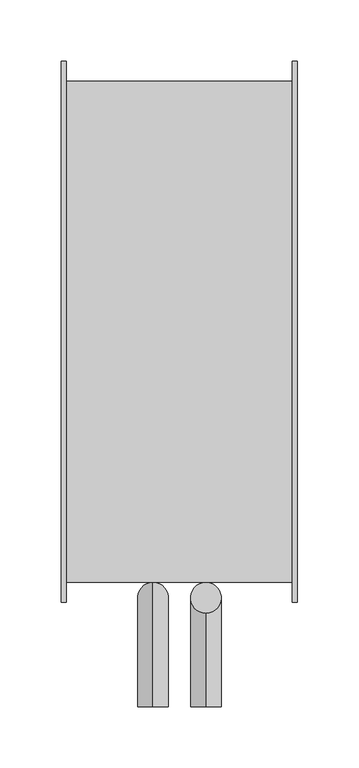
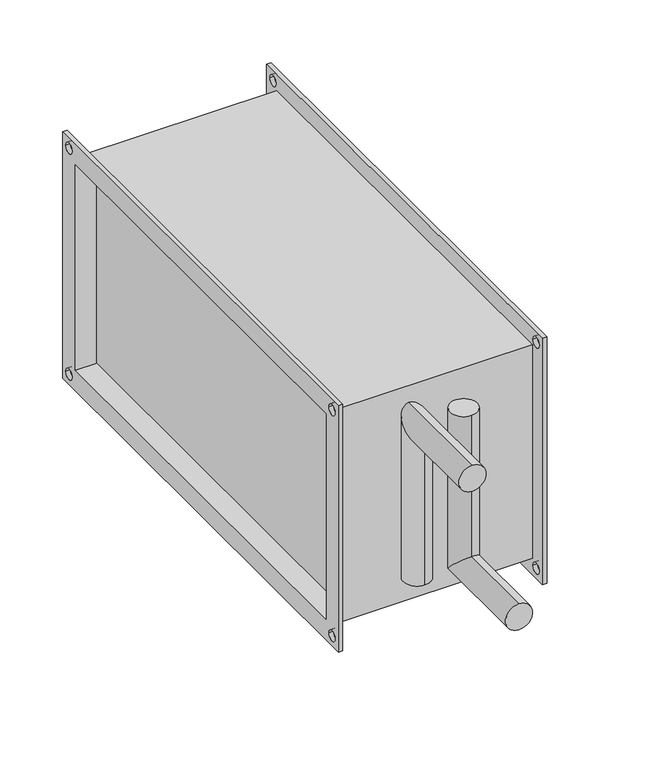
"""IFC4 building model written with IfcOpenShell, lengths in millimetres: proxy geometry, СВ_ВоздухонагревательВодяной_КанальныйПрямоугольный_200-1000_SPH-W : SPH-W-400x200/3."""

from ifc_helpers import new_model, si_unit, frame, origin, place, context, project, spatial, polyline, circle_curve, ellipse_curve, source, transform, mapped, element, save
from ifc_brep_helpers import plane_surface, cylinder_surface, revolved_surface, advanced_brep


def mechanical_equipment_65e6200e(model_context):
    return source(origin(), model_context, "Body", "AdvancedBrep", [
        advanced_brep(
        [(21.5, -204.0, 75.0), (21.5, -229.0, 75.0), (21.5, -204.0, -87.5), (21.5, -229.0, -62.5), (21.5, -305.0, -87.5), (21.5, -305.0, -62.5)],
        [
            (0, 1, circle_curve(frame((21.5, -216.5, 75.0), z_axis=(0.0, 0.0, 1.0), x_axis=(0.0, -1.0, 0.0)), 12.5)),
            (1, 0, circle_curve(frame((21.5, -216.5, 75.0), z_axis=(0.0, 0.0, 1.0), x_axis=(0.0, -1.0, 0.0)), 12.5)),
            (0, 2),
            (2, 3, ellipse_curve(frame((21.5, -216.5, -75.0), z_axis=(0.0, 0.7071067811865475, 0.7071067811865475), x_axis=(0.0, -0.7071067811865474, 0.7071067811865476)), 17.6776695, 12.5)),
            (3, 1),
            (3, 2, ellipse_curve(frame((21.5, -216.5, -75.0), z_axis=(0.0, 0.7071067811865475, 0.7071067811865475), x_axis=(0.0, -0.7071067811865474, 0.7071067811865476)), 17.6776695, 12.5)),
            (4, 5, circle_curve(frame((21.5, -305.0, -75.0), z_axis=(0.0, -1.0, 0.0), x_axis=(0.0, 0.0, 1.0)), 12.5)),
            (5, 4, circle_curve(frame((21.5, -305.0, -75.0), z_axis=(0.0, -1.0, 0.0), x_axis=(0.0, 0.0, 1.0)), 12.5)),
            (2, 4),
            (5, 3),
        ],
        [
            plane_surface(frame((21.5, -216.5, 75.0), z_axis=(0.0, 0.0, 1.0), x_axis=(-1.0, 0.0, 0.0))),
            cylinder_surface(frame((21.5, -216.5, 75.0), z_axis=(0.0, 0.0, 1.0), x_axis=(0.0, -1.0, 0.0)), 12.5),
            plane_surface(frame((21.5, -305.0, -75.0), z_axis=(0.0, -1.0, 0.0), x_axis=(-1.0, 0.0, 0.0))),
            cylinder_surface(frame((21.5, -216.5, -75.0), z_axis=(0.0, 1.0, 0.0), x_axis=(0.0, 0.0, 1.0)), 12.5),
        ],
        [
            (0, [[1, 2]]),
            (1, [[-1, 3, 4, 5]]),
            (1, [[-2, -5, 6, -3]]),
            (2, [[7, 8]]),
            (3, [[-4, 9, -8, 10]]),
            (3, [[-6, -10, -7, -9]]),
        ],
    ),
        advanced_brep(
        [(-21.5, -204.0, -75.0), (-21.5, -229.0, -75.0), (-21.5, -204.0, 87.5), (-21.5, -229.0, 62.5), (-21.5, -305.0, 87.5), (-21.5, -305.0, 62.5)],
        [
            (0, 1, circle_curve(frame((-21.5, -216.5, -75.0), z_axis=(0.0, 0.0, -1.0), x_axis=(0.0, -1.0, 0.0)), 12.5)),
            (1, 0, circle_curve(frame((-21.5, -216.5, -75.0), z_axis=(0.0, 0.0, -1.0), x_axis=(0.0, -1.0, 0.0)), 12.5)),
            (0, 2),
            (2, 3, ellipse_curve(frame((-21.5, -216.5, 75.0), z_axis=(0.0, 0.7071067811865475, -0.7071067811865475), x_axis=(0.0, -0.7071067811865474, -0.7071067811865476)), 17.6776695, 12.5)),
            (3, 1),
            (3, 2, ellipse_curve(frame((-21.5, -216.5, 75.0), z_axis=(0.0, 0.7071067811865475, -0.7071067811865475), x_axis=(0.0, -0.7071067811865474, -0.7071067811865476)), 17.6776695, 12.5)),
            (4, 5, circle_curve(frame((-21.5, -305.0, 75.0), z_axis=(0.0, -1.0, 0.0), x_axis=(0.0, 0.0, -1.0)), 12.5)),
            (5, 4, circle_curve(frame((-21.5, -305.0, 75.0), z_axis=(0.0, -1.0, 0.0), x_axis=(0.0, 0.0, -1.0)), 12.5)),
            (2, 4),
            (5, 3),
        ],
        [
            plane_surface(frame((-21.5, -216.5, -75.0), z_axis=(0.0, 0.0, -1.0), x_axis=(1.0, 0.0, 0.0))),
            cylinder_surface(frame((-21.5, -216.5, -75.0), z_axis=(0.0, 0.0, -1.0), x_axis=(0.0, -1.0, 0.0)), 12.5),
            plane_surface(frame((-21.5, -305.0, 75.0), z_axis=(0.0, -1.0, 0.0), x_axis=(1.0, 0.0, 0.0))),
            cylinder_surface(frame((-21.5, -216.5, 75.0), z_axis=(0.0, 1.0, 0.0), x_axis=(0.0, 0.0, -1.0)), 12.5),
        ],
        [
            (0, [[1, 2]]),
            (1, [[-1, 3, 4, 5]]),
            (1, [[-2, -5, 6, -3]]),
            (2, [[7, 8]]),
            (3, [[-4, 9, -8, 10]]),
            (3, [[-6, -10, -7, -9]]),
        ],
    ),
        advanced_brep(
        [(-92.0, -204.0, 104.0), (-92.0, -204.0, -104.0), (92.0, -204.0, -104.0), (92.0, -204.0, 104.0), (-92.0, 204.0, -104.0), (92.0, 204.0, -104.0), (-92.0, 204.0, 104.0), (92.0, 204.0, 104.0), (76.0, 200.0, -100.0), (76.0, 200.0, 100.0), (76.0, -200.0, 100.0), (76.0, -200.0, -100.0), (-76.0, -200.0, 100.0), (-76.0, 200.0, 100.0), (-76.0, 200.0, -100.0), (-76.0, -200.0, -100.0), (-96.0, -220.0, 120.0), (-96.0, 220.0, 120.0), (-96.0, 220.0, -120.0), (-96.0, -220.0, -120.0), (-96.0, -200.0, 100.0), (-96.0, -200.0, -100.0), (-96.0, 200.0, -100.0), (-96.0, 200.0, 100.0), (-96.0, 205.0, 110.0), (-96.0, 215.0, 110.0), (-96.0, -215.0, 110.0), (-96.0, -205.0, 110.0), (-96.0, -215.0, -110.0), (-96.0, -205.0, -110.0), (-96.0, 205.0, -110.0), (-96.0, 215.0, -110.0), (-92.0, -220.0, 120.0), (-92.0, -220.0, -120.0), (-92.0, 220.0, -120.0), (-92.0, 220.0, 120.0), (-92.0, 215.0, 110.0), (-92.0, 205.0, 110.0), (-92.0, -205.0, 110.0), (-92.0, -215.0, 110.0), (-92.0, -205.0, -110.0), (-92.0, -215.0, -110.0), (-92.0, 215.0, -110.0), (-92.0, 205.0, -110.0), (92.0, 220.0, 120.0), (92.0, 220.0, -120.0), (92.0, -220.0, -120.0), (92.0, -220.0, 120.0), (92.0, 205.0, 110.0), (92.0, 215.0, 110.0), (92.0, -215.0, 110.0), (92.0, -205.0, 110.0), (92.0, -215.0, -110.0), (92.0, -205.0, -110.0), (92.0, 205.0, -110.0), (92.0, 215.0, -110.0), (96.0, 220.0, 120.0), (96.0, -220.0, 120.0), (96.0, -220.0, -120.0), (96.0, 220.0, -120.0), (96.0, 200.0, 100.0), (96.0, 200.0, -100.0), (96.0, -200.0, -100.0), (96.0, -200.0, 100.0), (96.0, 215.0, 110.0), (96.0, 205.0, 110.0), (96.0, -205.0, 110.0), (96.0, -215.0, 110.0), (96.0, -205.0, -110.0), (96.0, -215.0, -110.0), (96.0, 215.0, -110.0), (96.0, 205.0, -110.0)],
        [
            (0, 1),
            (1, 2),
            (2, 3),
            (3, 0),
            (1, 4),
            (4, 5),
            (5, 2),
            (4, 6),
            (6, 7),
            (7, 5),
            (6, 0),
            (3, 7),
            (8, 9),
            (9, 10),
            (10, 11),
            (11, 8),
            (12, 13),
            (13, 14),
            (14, 15),
            (15, 12),
            (16, 17),
            (17, 18),
            (18, 19),
            (19, 16),
            (20, 21),
            (21, 22),
            (22, 23),
            (23, 20),
            (24, 25, circle_curve(frame((-96.0, 210.0, 110.0), z_axis=(1.0, 0.0, 0.0), x_axis=(0.0, -1.0, 0.0)), 5.0)),
            (25, 24, circle_curve(frame((-96.0, 210.0, 110.0), z_axis=(1.0, 0.0, 0.0), x_axis=(0.0, -1.0, 0.0)), 5.0)),
            (26, 27, circle_curve(frame((-96.0, -210.0, 110.0), z_axis=(1.0, 0.0, 0.0), x_axis=(0.0, -1.0, 0.0)), 5.0)),
            (27, 26, circle_curve(frame((-96.0, -210.0, 110.0), z_axis=(1.0, 0.0, 0.0), x_axis=(0.0, -1.0, 0.0)), 5.0)),
            (28, 29, circle_curve(frame((-96.0, -210.0, -110.0), z_axis=(1.0, 0.0, 0.0), x_axis=(0.0, -1.0, 0.0)), 5.0)),
            (29, 28, circle_curve(frame((-96.0, -210.0, -110.0), z_axis=(1.0, 0.0, 0.0), x_axis=(0.0, -1.0, 0.0)), 5.0)),
            (30, 31, circle_curve(frame((-96.0, 210.0, -110.0), z_axis=(1.0, 0.0, 0.0), x_axis=(0.0, -1.0, 0.0)), 5.0)),
            (31, 30, circle_curve(frame((-96.0, 210.0, -110.0), z_axis=(1.0, 0.0, 0.0), x_axis=(0.0, -1.0, 0.0)), 5.0)),
            (32, 33),
            (33, 34),
            (34, 35),
            (35, 32),
            (36, 37, circle_curve(frame((-92.0, 210.0, 110.0), z_axis=(-1.0, 0.0, 0.0), x_axis=(0.0, -1.0, 0.0)), 5.0)),
            (37, 36, circle_curve(frame((-92.0, 210.0, 110.0), z_axis=(-1.0, 0.0, 0.0), x_axis=(0.0, -1.0, 0.0)), 5.0)),
            (38, 39, circle_curve(frame((-92.0, -210.0, 110.0), z_axis=(-1.0, 0.0, 0.0), x_axis=(0.0, -1.0, 0.0)), 5.0)),
            (39, 38, circle_curve(frame((-92.0, -210.0, 110.0), z_axis=(-1.0, 0.0, 0.0), x_axis=(0.0, -1.0, 0.0)), 5.0)),
            (40, 41, circle_curve(frame((-92.0, -210.0, -110.0), z_axis=(-1.0, 0.0, 0.0), x_axis=(0.0, -1.0, 0.0)), 5.0)),
            (41, 40, circle_curve(frame((-92.0, -210.0, -110.0), z_axis=(-1.0, 0.0, 0.0), x_axis=(0.0, -1.0, 0.0)), 5.0)),
            (42, 43, circle_curve(frame((-92.0, 210.0, -110.0), z_axis=(-1.0, 0.0, 0.0), x_axis=(0.0, -1.0, 0.0)), 5.0)),
            (43, 42, circle_curve(frame((-92.0, 210.0, -110.0), z_axis=(-1.0, 0.0, 0.0), x_axis=(0.0, -1.0, 0.0)), 5.0)),
            (19, 33),
            (32, 16),
            (18, 34),
            (17, 35),
            (44, 45),
            (45, 46),
            (46, 47),
            (47, 44),
            (48, 49, circle_curve(frame((92.0, 210.0, 110.0), z_axis=(1.0, 0.0, 0.0), x_axis=(0.0, -1.0, 0.0)), 5.0)),
            (49, 48, circle_curve(frame((92.0, 210.0, 110.0), z_axis=(1.0, 0.0, 0.0), x_axis=(0.0, -1.0, 0.0)), 5.0)),
            (50, 51, circle_curve(frame((92.0, -210.0, 110.0), z_axis=(1.0, 0.0, 0.0), x_axis=(0.0, -1.0, 0.0)), 5.0)),
            (51, 50, circle_curve(frame((92.0, -210.0, 110.0), z_axis=(1.0, 0.0, 0.0), x_axis=(0.0, -1.0, 0.0)), 5.0)),
            (52, 53, circle_curve(frame((92.0, -210.0, -110.0), z_axis=(1.0, 0.0, 0.0), x_axis=(0.0, -1.0, 0.0)), 5.0)),
            (53, 52, circle_curve(frame((92.0, -210.0, -110.0), z_axis=(1.0, 0.0, 0.0), x_axis=(0.0, -1.0, 0.0)), 5.0)),
            (54, 55, circle_curve(frame((92.0, 210.0, -110.0), z_axis=(1.0, 0.0, 0.0), x_axis=(0.0, -1.0, 0.0)), 5.0)),
            (55, 54, circle_curve(frame((92.0, 210.0, -110.0), z_axis=(1.0, 0.0, 0.0), x_axis=(0.0, -1.0, 0.0)), 5.0)),
            (56, 57),
            (57, 58),
            (58, 59),
            (59, 56),
            (60, 61),
            (61, 62),
            (62, 63),
            (63, 60),
            (64, 65, circle_curve(frame((96.0, 210.0, 110.0), z_axis=(-1.0, 0.0, 0.0), x_axis=(0.0, -1.0, 0.0)), 5.0)),
            (65, 64, circle_curve(frame((96.0, 210.0, 110.0), z_axis=(-1.0, 0.0, 0.0), x_axis=(0.0, -1.0, 0.0)), 5.0)),
            (66, 67, circle_curve(frame((96.0, -210.0, 110.0), z_axis=(-1.0, 0.0, 0.0), x_axis=(0.0, -1.0, 0.0)), 5.0)),
            (67, 66, circle_curve(frame((96.0, -210.0, 110.0), z_axis=(-1.0, 0.0, 0.0), x_axis=(0.0, -1.0, 0.0)), 5.0)),
            (68, 69, circle_curve(frame((96.0, -210.0, -110.0), z_axis=(-1.0, 0.0, 0.0), x_axis=(0.0, -1.0, 0.0)), 5.0)),
            (69, 68, circle_curve(frame((96.0, -210.0, -110.0), z_axis=(-1.0, 0.0, 0.0), x_axis=(0.0, -1.0, 0.0)), 5.0)),
            (70, 71, circle_curve(frame((96.0, 210.0, -110.0), z_axis=(-1.0, 0.0, 0.0), x_axis=(0.0, -1.0, 0.0)), 5.0)),
            (71, 70, circle_curve(frame((96.0, 210.0, -110.0), z_axis=(-1.0, 0.0, 0.0), x_axis=(0.0, -1.0, 0.0)), 5.0)),
            (47, 57),
            (56, 44),
            (46, 58),
            (45, 59),
            (23, 13),
            (12, 20),
            (22, 14),
            (21, 15),
            (60, 9),
            (8, 61),
            (11, 62),
            (10, 63),
            (36, 25),
            (24, 37),
            (64, 49),
            (48, 65),
            (38, 27),
            (26, 39),
            (66, 51),
            (50, 67),
            (40, 29),
            (28, 41),
            (68, 53),
            (52, 69),
            (42, 31),
            (30, 43),
            (70, 55),
            (54, 71),
        ],
        [
            plane_surface(frame((-76.0, -204.0, 104.0), z_axis=(0.0, -1.0, 0.0), x_axis=(-1.0, 0.0, 0.0))),
            plane_surface(frame((-76.0, -204.0, -104.0), z_axis=(0.0, 0.0, -1.0), x_axis=(-1.0, 0.0, 0.0))),
            plane_surface(frame((-76.0, 204.0, -104.0), z_axis=(0.0, 1.0, 0.0), x_axis=(-1.0, 0.0, 0.0))),
            plane_surface(frame((-76.0, 204.0, 104.0), z_axis=(0.0, 0.0, 1.0), x_axis=(-1.0, 0.0, 0.0))),
            plane_surface(frame((76.0, -204.0, 104.0), z_axis=(1.0, 0.0, 0.0), x_axis=(0.0, 0.0, -1.0))),
            plane_surface(frame((-76.0, -204.0, 104.0), z_axis=(-1.0, 0.0, 0.0), x_axis=(0.0, 0.0, 1.0))),
            plane_surface(frame((-96.0, -220.0, 120.0), z_axis=(-1.0, 0.0, 0.0), x_axis=(0.0, 0.0, 1.0))),
            plane_surface(frame((-92.0, -220.0, 120.0), z_axis=(1.0, 0.0, 0.0), x_axis=(0.0, 0.0, -1.0))),
            plane_surface(frame((-92.0, -220.0, 120.0), z_axis=(0.0, -1.0, 0.0), x_axis=(-1.0, 0.0, 0.0))),
            plane_surface(frame((-92.0, -220.0, -120.0), z_axis=(0.0, 0.0, -1.0), x_axis=(-1.0, 0.0, 0.0))),
            plane_surface(frame((-92.0, 220.0, -120.0), z_axis=(0.0, 1.0, 0.0), x_axis=(-1.0, 0.0, 0.0))),
            plane_surface(frame((-92.0, 220.0, 120.0), z_axis=(0.0, 0.0, 1.0), x_axis=(-1.0, 0.0, 0.0))),
            plane_surface(frame((92.0, 200.0, -100.0), z_axis=(-1.0, 0.0, 0.0), x_axis=(0.0, 0.0, 1.0))),
            plane_surface(frame((96.0, 200.0, -100.0), z_axis=(1.0, 0.0, 0.0), x_axis=(0.0, 0.0, -1.0))),
            plane_surface(frame((96.0, 220.0, 120.0), z_axis=(0.0, 0.0, 1.0), x_axis=(-1.0, 0.0, 0.0))),
            plane_surface(frame((96.0, -220.0, 120.0), z_axis=(0.0, -1.0, 0.0), x_axis=(-1.0, 0.0, 0.0))),
            plane_surface(frame((96.0, -220.0, -120.0), z_axis=(0.0, 0.0, -1.0), x_axis=(-1.0, 0.0, 0.0))),
            plane_surface(frame((96.0, 220.0, -120.0), z_axis=(0.0, 1.0, 0.0), x_axis=(-1.0, 0.0, 0.0))),
            plane_surface(frame((-92.0, -200.0, 100.0), z_axis=(0.0, 0.0, -1.0), x_axis=(-1.0, 0.0, 0.0))),
            plane_surface(frame((-92.0, 200.0, 100.0), z_axis=(0.0, -1.0, 0.0), x_axis=(-1.0, 0.0, 0.0))),
            plane_surface(frame((-92.0, 200.0, -100.0), z_axis=(0.0, 0.0, 1.0), x_axis=(-1.0, 0.0, 0.0))),
            plane_surface(frame((-92.0, -200.0, -100.0), z_axis=(0.0, 1.0, 0.0), x_axis=(-1.0, 0.0, 0.0))),
            plane_surface(frame((96.0, 200.0, 100.0), z_axis=(0.0, -1.0, 0.0), x_axis=(-1.0, 0.0, 0.0))),
            plane_surface(frame((96.0, 200.0, -100.0), z_axis=(0.0, 0.0, 1.0), x_axis=(-1.0, 0.0, 0.0))),
            plane_surface(frame((96.0, -200.0, -100.0), z_axis=(0.0, 1.0, 0.0), x_axis=(-1.0, 0.0, 0.0))),
            plane_surface(frame((96.0, -200.0, 100.0), z_axis=(0.0, 0.0, -1.0), x_axis=(-1.0, 0.0, 0.0))),
            revolved_surface(polyline([(-96.0, 205.0, 110.0), (-92.0, 205.0, 110.0)]), (96.0, 210.0, 110.0), (-1.0, 0.0, 0.0)),
            revolved_surface(polyline([(92.0, 205.0, 110.0), (96.0, 205.0, 110.0)]), (96.0, 210.0, 110.0), (-1.0, 0.0, 0.0)),
            revolved_surface(polyline([(-96.0, -215.0, 110.0), (-92.0, -215.0, 110.0)]), (21.5, -210.0, 110.0), (-1.0, 0.0, 0.0)),
            revolved_surface(polyline([(92.0, -215.0, 110.0), (96.0, -215.0, 110.0)]), (21.5, -210.0, 110.0), (-1.0, 0.0, 0.0)),
            revolved_surface(polyline([(-96.0, -215.0, -110.0), (-92.0, -215.0, -110.0)]), (21.5, -210.0, -110.0), (-1.0, 0.0, 0.0)),
            revolved_surface(polyline([(92.0, -215.0, -110.0), (96.0, -215.0, -110.0)]), (21.5, -210.0, -110.0), (-1.0, 0.0, 0.0)),
            revolved_surface(polyline([(-96.0, 205.0, -110.0), (-92.0, 205.0, -110.0)]), (21.5, 210.0, -110.0), (-1.0, 0.0, 0.0)),
            revolved_surface(polyline([(92.0, 205.0, -110.0), (96.0, 205.0, -110.0)]), (21.5, 210.0, -110.0), (-1.0, 0.0, 0.0)),
        ],
        [
            (0, [[1, 2, 3, 4]]),
            (1, [[-2, 5, 6, 7]]),
            (2, [[-6, 8, 9, 10]]),
            (3, [[-9, 11, -4, 12]]),
            (4, [[13, 14, 15, 16]]),
            (5, [[17, 18, 19, 20]]),
            (6, [[21, 22, 23, 24], [25, 26, 27, 28], [29, 30], [31, 32], [33, 34], [35, 36]]),
            (7, [[37, 38, 39, 40], [-1, -11, -8, -5], [41, 42], [43, 44], [45, 46], [47, 48]]),
            (8, [[-24, 49, -37, 50]]),
            (9, [[-23, 51, -38, -49]]),
            (10, [[-22, 52, -39, -51]]),
            (11, [[-21, -50, -40, -52]]),
            (12, [[53, 54, 55, 56], [-3, -7, -10, -12], [57, 58], [59, 60], [61, 62], [63, 64]]),
            (13, [[65, 66, 67, 68], [69, 70, 71, 72], [73, 74], [75, 76], [77, 78], [79, 80]]),
            (14, [[-56, 81, -65, 82]]),
            (15, [[-55, 83, -66, -81]]),
            (16, [[-54, 84, -67, -83]]),
            (17, [[-53, -82, -68, -84]]),
            (18, [[-28, 85, -17, 86]]),
            (19, [[-27, 87, -18, -85]]),
            (20, [[-26, 88, -19, -87]]),
            (21, [[-25, -86, -20, -88]]),
            (22, [[-69, 89, -13, 90]]),
            (23, [[-70, -90, -16, 91]]),
            (24, [[-71, -91, -15, 92]]),
            (25, [[-89, -72, -92, -14]]),
            (26, [[93, -29, 94, -41]]),
            (27, [[95, -57, 96, -73]]),
            (26, [[-93, -42, -94, -30]]),
            (27, [[-95, -74, -96, -58]]),
            (28, [[97, -31, 98, -43]]),
            (29, [[99, -59, 100, -75]]),
            (28, [[-97, -44, -98, -32]]),
            (29, [[-99, -76, -100, -60]]),
            (30, [[101, -33, 102, -45]]),
            (31, [[103, -61, 104, -77]]),
            (30, [[-101, -46, -102, -34]]),
            (31, [[-103, -78, -104, -62]]),
            (32, [[105, -35, 106, -47]]),
            (33, [[107, -63, 108, -79]]),
            (32, [[-105, -48, -106, -36]]),
            (33, [[-107, -80, -108, -64]]),
        ],
    ),
    ])


if __name__ == "__main__":
    model = new_model("IFC4")
    model_context = context("Model", 3, world=origin())
    ifc_project = project(units=[si_unit("LENGTHUNIT", "METRE", prefix="MILLI")], contexts=[model_context])
    site = spatial("IfcSite", under=ifc_project)
    building = spatial("IfcBuilding", under=site)
    placement = place(None, origin())
    mechanical_equipment_shape = mechanical_equipment_65e6200e(model_context)
    element("IfcBuildingElementProxy", 1, Name="СВ_ВоздухонагревательВодяной_КанальныйПрямоугольный_200-1000_SPH-W : SPH-W-400x200/3", ObjectType="СВ_ВоздухонагревательВодяной_КанальныйПрямоугольный_200-1000_SPH-W : SPH-W-400x200/3", at=placement, inside=building, context=model_context, shape_type="MappedRepresentation", body=[
        mapped(mechanical_equipment_shape, transform((0.0, 0.0, 0.0), x_axis=(1.0, 0.0, 0.0), y_axis=(0.0, 1.0, 0.0), z_axis=(0.0, 0.0, 1.0))),
    ])
    save(model, "model.ifc")
